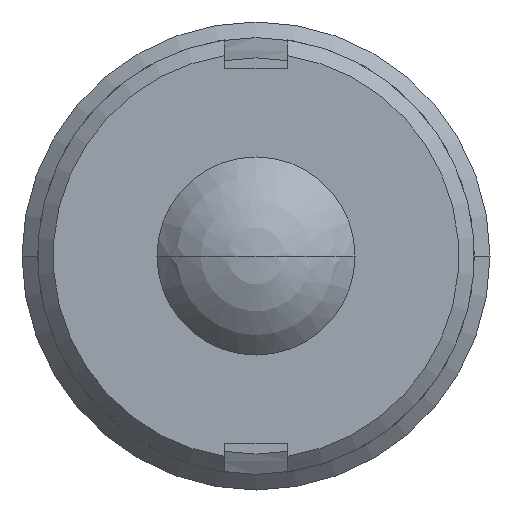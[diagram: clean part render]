
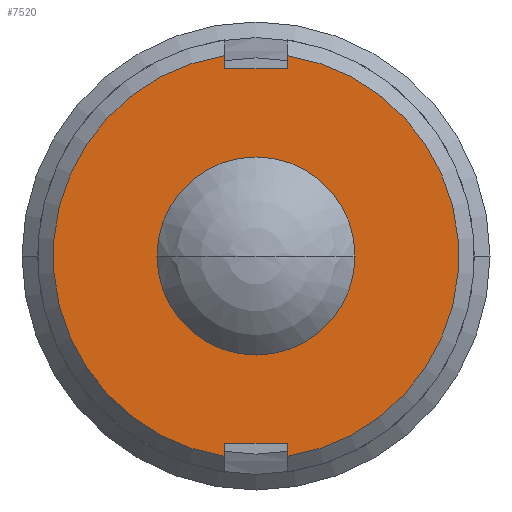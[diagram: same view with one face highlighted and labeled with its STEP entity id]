
A CAD part, left-side view. The second image highlights one B-rep face of the part: STEP entity #7520.
In plain terms, the highlighted planar face has unit normal (-1, 0, 0).
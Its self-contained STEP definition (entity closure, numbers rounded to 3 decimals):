
#6450=CARTESIAN_POINT('',(22.295,1.708,
-6.423));
#6460=VERTEX_POINT('',#6450);
#6650=CARTESIAN_POINT('',(22.295,1.708,
6.423));
#6660=VERTEX_POINT('',#6650);
#6690=CARTESIAN_POINT('',(22.295,0.708,0.));
#6700=DIRECTION('',(1.,0.,0.));
#6710=DIRECTION('',(0.,1.,0.));
#6720=AXIS2_PLACEMENT_3D('',#6690,#6700,#6710);
#6730=CIRCLE('',#6720,6.5);
#6740=EDGE_CURVE('',#6460,#6660,#6730,.T.);
#6790=CARTESIAN_POINT('',(22.295,5.546,0.));
#6800=DIRECTION('',(-1.,0.,0.));
#6810=DIRECTION('',(0.,1.,0.));
#6820=AXIS2_PLACEMENT_3D('',#6790,#6800,#6810);
#6830=PLANE('',#6820);
#6840=CARTESIAN_POINT('',(22.295,0.708,0.));
#6850=DIRECTION('',(1.,0.,0.));
#6860=DIRECTION('',(0.,1.,0.));
#6870=AXIS2_PLACEMENT_3D('',#6840,#6850,#6860);
#6880=CIRCLE('',#6870,3.175);
#6890=CARTESIAN_POINT('',(22.295,3.883,0.));
#6900=VERTEX_POINT('',#6890);
#6910=CARTESIAN_POINT('',(22.295,-2.467,
0.));
#6920=VERTEX_POINT('',#6910);
#6930=EDGE_CURVE('',#6900,#6920,#6880,.T.);
#6940=ORIENTED_EDGE('',*,*,#6930,.T.);
#6950=EDGE_CURVE('',#6920,#6900,#6880,.T.);
#6960=ORIENTED_EDGE('',*,*,#6950,.T.);
#6970=EDGE_LOOP('',(#6960,#6940));
#6980=FACE_BOUND('',#6970,.T.);
#6990=CARTESIAN_POINT('',(22.295,1.708,0.));
#7000=DIRECTION('',(0.,0.,1.));
#7010=VECTOR('',#7000,1.);
#7020=LINE('',#6990,#7010);
#7030=CARTESIAN_POINT('',(22.295,1.708,6.));
#7040=VERTEX_POINT('',#7030);
#7050=EDGE_CURVE('',#7040,#6660,#7020,.T.);
#7060=ORIENTED_EDGE('',*,*,#7050,.T.);
#7070=CARTESIAN_POINT('',(22.295,0.,6.));
#7080=DIRECTION('',(0.,1.,0.));
#7090=VECTOR('',#7080,1.);
#7100=LINE('',#7070,#7090);
#7110=CARTESIAN_POINT('',(22.295,-0.292,6.));
#7120=VERTEX_POINT('',#7110);
#7130=EDGE_CURVE('',#7120,#7040,#7100,.T.);
#7140=ORIENTED_EDGE('',*,*,#7130,.T.);
#7150=CARTESIAN_POINT('',(22.295,-0.292,0.));
#7160=DIRECTION('',(0.,0.,-1.));
#7170=VECTOR('',#7160,1.);
#7180=LINE('',#7150,#7170);
#7190=CARTESIAN_POINT('',(22.295,-0.292,
6.423));
#7200=VERTEX_POINT('',#7190);
#7210=EDGE_CURVE('',#7200,#7120,#7180,.T.);
#7220=ORIENTED_EDGE('',*,*,#7210,.T.);
#7230=CARTESIAN_POINT('',(22.295,-0.292,
-6.423));
#7240=VERTEX_POINT('',#7230);
#7250=EDGE_CURVE('',#7200,#7240,#6730,.T.);
#7260=ORIENTED_EDGE('',*,*,#7250,.F.);
#7270=CARTESIAN_POINT('',(22.295,-0.292,0.));
#7280=DIRECTION('',(0.,0.,-1.));
#7290=VECTOR('',#7280,1.);
#7300=LINE('',#7270,#7290);
#7310=CARTESIAN_POINT('',(22.295,-0.292,-6.));
#7320=VERTEX_POINT('',#7310);
#7330=EDGE_CURVE('',#7320,#7240,#7300,.T.);
#7340=ORIENTED_EDGE('',*,*,#7330,.T.);
#7350=CARTESIAN_POINT('',(22.295,0.,-6.));
#7360=DIRECTION('',(0.,-1.,0.));
#7370=VECTOR('',#7360,1.);
#7380=LINE('',#7350,#7370);
#7390=CARTESIAN_POINT('',(22.295,1.708,-6.));
#7400=VERTEX_POINT('',#7390);
#7410=EDGE_CURVE('',#7400,#7320,#7380,.T.);
#7420=ORIENTED_EDGE('',*,*,#7410,.T.);
#7430=CARTESIAN_POINT('',(22.295,1.708,0.));
#7440=DIRECTION('',(0.,0.,1.));
#7450=VECTOR('',#7440,1.);
#7460=LINE('',#7430,#7450);
#7470=EDGE_CURVE('',#6460,#7400,#7460,.T.);
#7480=ORIENTED_EDGE('',*,*,#7470,.T.);
#7490=ORIENTED_EDGE('',*,*,#6740,.F.);
#7500=EDGE_LOOP('',(#7490,#7480,#7420,#7340,#7260,#7220,#7140,#7060));
#7510=FACE_OUTER_BOUND('',#7500,.T.);
#7520=ADVANCED_FACE('',(#6980,#7510),#6830,.T.);
